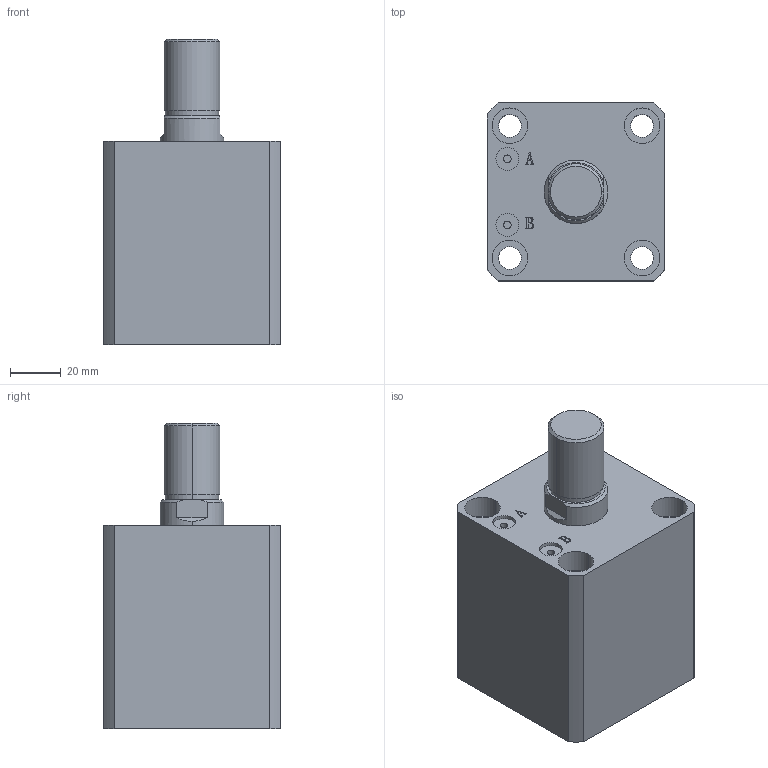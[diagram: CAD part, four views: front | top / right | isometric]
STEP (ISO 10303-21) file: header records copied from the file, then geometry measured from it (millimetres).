
FILE_DESCRIPTION (( 'STEP AP203' ), '1' );
FILE_NAME ('HTB-SDMA40-25W.STEP', '2019-10-07T11:51:40', ( '微软用户' ), ( '微软中国' ), 'SwSTEP 2.0', 'SolidWorks 2012', '' );
FILE_SCHEMA (( 'CONFIG_CONTROL_DESIGN' ));
Length unit declared in the file: millimetre
Products named in the file (3): HTB-SDMA40-25W; HTB-SDMA40-25W活塞杆; HTB-SDMA40-25掛极
Assembly tree (2 placements, depth 2):
  HTB-SDMA40-25W
    HTB-SDMA40-25掛极
    HTB-SDMA40-25W活塞杆
Bounding box: 70 x 70 x 120 mm (x, y, z)
Volume: 358587.4 mm3; surface area: 62106.5 mm2
Topology: 2 solids, 2 shells, 141 faces, 337 edges, 222 vertices
Faces by surface type: plane 67, cylinder 48, bspline 16, torus 6, cone 4
Entity records: 5180 total; most frequent: CARTESIAN_POINT 1597, ORIENTED_EDGE 674, DIRECTION 669, EDGE_CURVE 337, AXIS2_PLACEMENT_3D 242, VERTEX_POINT 222, LINE 185, VECTOR 185
